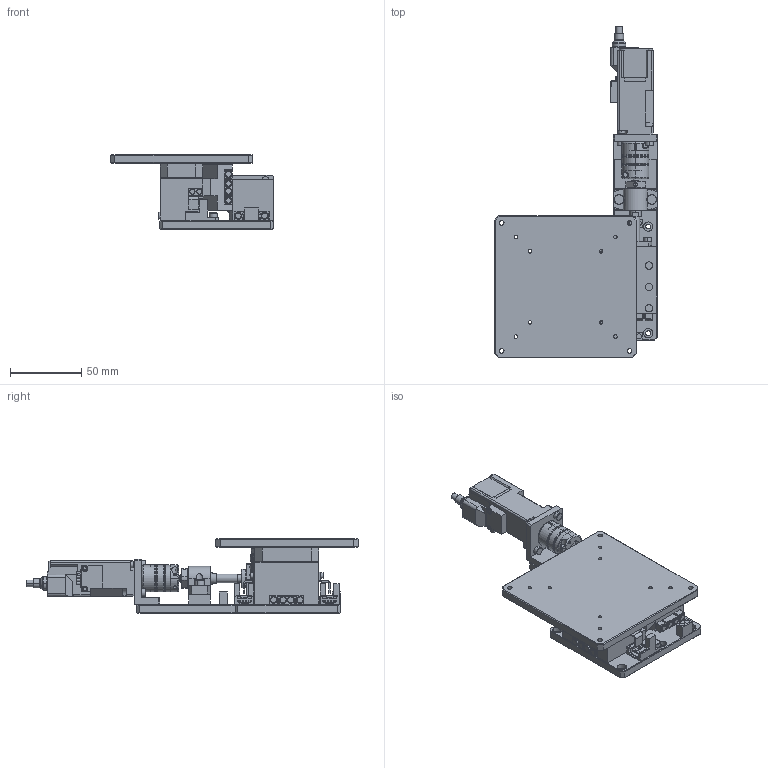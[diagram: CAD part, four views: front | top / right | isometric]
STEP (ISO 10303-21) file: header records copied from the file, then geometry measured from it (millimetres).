
FILE_DESCRIPTION (( 'STEP AP203' ), '1' );
FILE_NAME ('NAFHW1D-100(servo).STEP', '2023-09-07T03:58:21', ( '' ), ( '' ), 'SwSTEP 2.0', 'SolidWorks 2023', '' );
FILE_SCHEMA (( 'CONFIG_CONTROL_DESIGN' ));
Length unit declared in the file: millimetre
Products named in the file (1): NAFHW1D-100(servo)
Bounding box: 114.57 x 233.5 x 52.5 mm (x, y, z)
Surface area: 89198.6 mm2 (no closed solid volume)
Topology: 0 solids, 105 shells, 1438 faces, 3861 edges, 2592 vertices
Faces by surface type: plane 852, cylinder 375, cone 107, torus 82, bspline 22
Entity records: 49999 total; most frequent: CARTESIAN_POINT 13488, DIRECTION 7709, ORIENTED_EDGE 7196, EDGE_CURVE 3861, AXIS2_PLACEMENT_3D 2651, VERTEX_POINT 2592, LINE 2407, VECTOR 2407
